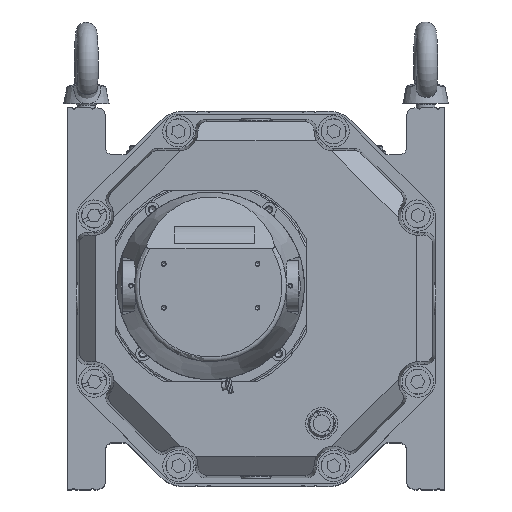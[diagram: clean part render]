
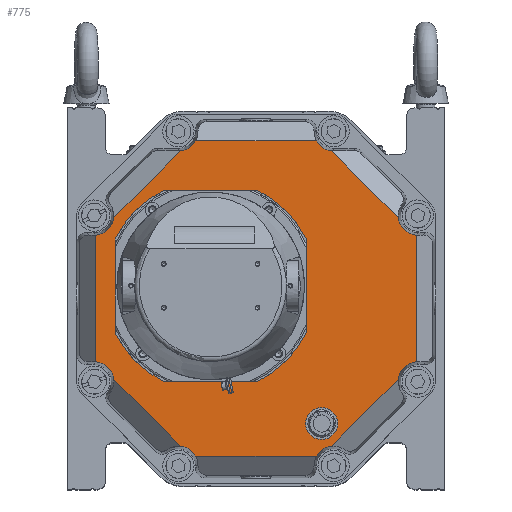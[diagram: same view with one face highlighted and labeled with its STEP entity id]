
A CAD part, top view. The second image highlights one B-rep face of the part: STEP entity #775.
In plain terms, the highlighted planar face has unit normal (0, 0, 1).
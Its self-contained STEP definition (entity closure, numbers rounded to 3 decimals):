
#775=ADVANCED_FACE('',(#14566,#14568,#14570),#14572,.T.);
#14566=FACE_BOUND('',#14567,.T.);
#14567=EDGE_LOOP('',(#32888,#32889,#32890,#32891,#32892,#32893,#32894,#32895,#32896,
#32897,#32898,#32899,#32900,#32901,#32902,#32903));
#14568=FACE_BOUND('',#14569,.T.);
#14569=EDGE_LOOP('',(#32904));
#14570=FACE_BOUND('',#14571,.T.);
#14571=EDGE_LOOP('',(#32905,#32906,#32907,#32908,#32909,#32910,#32911,#32912));
#14572=PLANE('',#14573);
#14573=AXIS2_PLACEMENT_3D('',#14574,#14575,#14576);
#14574=CARTESIAN_POINT('',(0.,0.,188.9));
#14575=DIRECTION('',(0.,0.,1.));
#14576=DIRECTION('',(0.,-1.,0.));
#32888=ORIENTED_EDGE('',*,*,#39616,.F.);
#32889=ORIENTED_EDGE('',*,*,#39617,.T.);
#32890=ORIENTED_EDGE('',*,*,#39618,.F.);
#32891=ORIENTED_EDGE('',*,*,#39619,.T.);
#32892=ORIENTED_EDGE('',*,*,#39620,.T.);
#32893=ORIENTED_EDGE('',*,*,#39621,.T.);
#32894=ORIENTED_EDGE('',*,*,#39622,.T.);
#32895=ORIENTED_EDGE('',*,*,#39623,.T.);
#32896=ORIENTED_EDGE('',*,*,#39624,.F.);
#32897=ORIENTED_EDGE('',*,*,#39625,.T.);
#32898=ORIENTED_EDGE('',*,*,#39626,.F.);
#32899=ORIENTED_EDGE('',*,*,#39627,.T.);
#32900=ORIENTED_EDGE('',*,*,#39628,.T.);
#32901=ORIENTED_EDGE('',*,*,#39629,.T.);
#32902=ORIENTED_EDGE('',*,*,#39630,.T.);
#32903=ORIENTED_EDGE('',*,*,#39631,.T.);
#32904=ORIENTED_EDGE('',*,*,#39632,.F.);
#32905=ORIENTED_EDGE('',*,*,#39486,.F.);
#32906=ORIENTED_EDGE('',*,*,#39610,.F.);
#32907=ORIENTED_EDGE('',*,*,#39482,.F.);
#32908=ORIENTED_EDGE('',*,*,#39611,.F.);
#32909=ORIENTED_EDGE('',*,*,#39478,.F.);
#32910=ORIENTED_EDGE('',*,*,#39608,.F.);
#32911=ORIENTED_EDGE('',*,*,#39474,.F.);
#32912=ORIENTED_EDGE('',*,*,#39609,.F.);
#39474=EDGE_CURVE('',#42989,#42991,#42992,.T.);
#39478=EDGE_CURVE('',#42995,#42997,#42998,.T.);
#39482=EDGE_CURVE('',#43001,#43003,#43004,.T.);
#39486=EDGE_CURVE('',#43007,#43009,#43010,.T.);
#39608=EDGE_CURVE('',#42991,#42995,#43213,.T.);
#39609=EDGE_CURVE('',#43009,#42989,#43214,.T.);
#39610=EDGE_CURVE('',#43003,#43007,#43215,.T.);
#39611=EDGE_CURVE('',#42997,#43001,#43216,.T.);
#39616=EDGE_CURVE('',#43225,#43226,#43227,.T.);
#39617=EDGE_CURVE('',#43225,#43228,#43229,.T.);
#39618=EDGE_CURVE('',#43230,#43228,#43231,.T.);
#39619=EDGE_CURVE('',#43230,#43232,#43233,.T.);
#39620=EDGE_CURVE('',#43232,#43234,#43235,.T.);
#39621=EDGE_CURVE('',#43234,#43236,#43237,.T.);
#39622=EDGE_CURVE('',#43236,#43238,#43239,.T.);
#39623=EDGE_CURVE('',#43238,#43240,#43241,.T.);
#39624=EDGE_CURVE('',#43242,#43240,#43243,.T.);
#39625=EDGE_CURVE('',#43242,#43244,#43245,.T.);
#39626=EDGE_CURVE('',#43246,#43244,#43247,.T.);
#39627=EDGE_CURVE('',#43246,#43248,#43249,.T.);
#39628=EDGE_CURVE('',#43248,#43250,#43251,.T.);
#39629=EDGE_CURVE('',#43250,#43252,#43253,.T.);
#39630=EDGE_CURVE('',#43252,#43254,#43255,.T.);
#39631=EDGE_CURVE('',#43254,#43226,#43256,.T.);
#39632=EDGE_CURVE('',#43257,#43257,#43258,.T.);
#42989=VERTEX_POINT('',#49506);
#42991=VERTEX_POINT('',#49510);
#42992=LINE('',#49511,#49512);
#42995=VERTEX_POINT('',#49520);
#42997=VERTEX_POINT('',#49524);
#42998=LINE('',#49525,#49526);
#43001=VERTEX_POINT('',#49534);
#43003=VERTEX_POINT('',#49538);
#43004=LINE('',#49539,#49540);
#43007=VERTEX_POINT('',#49548);
#43009=VERTEX_POINT('',#49552);
#43010=LINE('',#49553,#49554);
#43213=CIRCLE('',#52208,68.052);
#43214=CIRCLE('',#52212,68.052);
#43215=CIRCLE('',#52216,68.052);
#43216=CIRCLE('',#52220,68.052);
#43225=VERTEX_POINT('',#52648);
#43226=VERTEX_POINT('',#52649);
#43227=CIRCLE('',#52650,12.637);
#43228=VERTEX_POINT('',#52654);
#43229=LINE('',#52655,#52656);
#43230=VERTEX_POINT('',#52658);
#43231=CIRCLE('',#52659,12.637);
#43232=VERTEX_POINT('',#52663);
#43233=LINE('',#52664,#52665);
#43234=VERTEX_POINT('',#52667);
#43235=CIRCLE('',#52668,12.637);
#43236=VERTEX_POINT('',#52672);
#43237=LINE('',#52673,#52674);
#43238=VERTEX_POINT('',#52676);
#43239=CIRCLE('',#52677,12.637);
#43240=VERTEX_POINT('',#52681);
#43241=LINE('',#52682,#52683);
#43242=VERTEX_POINT('',#52685);
#43243=CIRCLE('',#52686,12.637);
#43244=VERTEX_POINT('',#52690);
#43245=LINE('',#52691,#52692);
#43246=VERTEX_POINT('',#52694);
#43247=CIRCLE('',#52695,12.637);
#43248=VERTEX_POINT('',#52699);
#43249=LINE('',#52700,#52701);
#43250=VERTEX_POINT('',#52703);
#43251=CIRCLE('',#52704,12.637);
#43252=VERTEX_POINT('',#52708);
#43253=LINE('',#52709,#52710);
#43254=VERTEX_POINT('',#52712);
#43255=CIRCLE('',#52713,12.637);
#43256=LINE('',#52717,#52718);
#43257=VERTEX_POINT('',#52720);
#43258=CIRCLE('',#52721,10.25);
#49506=CARTESIAN_POINT('',(-90.052,38.062,188.9));
#49510=CARTESIAN_POINT('',(-90.052,-22.062,188.9));
#49511=CARTESIAN_POINT('',(-90.052,38.062,188.9));
#49512=VECTOR('',#49513,1.);
#49513=DIRECTION('',(0.,-1.,0.));
#49520=CARTESIAN_POINT('',(-59.062,-53.052,188.9));
#49524=CARTESIAN_POINT('',(1.062,-53.052,188.9));
#49525=CARTESIAN_POINT('',(-59.062,-53.052,188.9));
#49526=VECTOR('',#49527,1.);
#49527=DIRECTION('',(1.,0.,0.));
#49534=CARTESIAN_POINT('',(32.052,-22.062,188.9));
#49538=CARTESIAN_POINT('',(32.052,38.062,188.9));
#49539=CARTESIAN_POINT('',(32.052,-22.062,188.9));
#49540=VECTOR('',#49541,1.);
#49541=DIRECTION('',(0.,1.,0.));
#49548=CARTESIAN_POINT('',(1.062,69.052,188.9));
#49552=CARTESIAN_POINT('',(-59.062,69.052,188.9));
#49553=CARTESIAN_POINT('',(1.062,69.052,188.9));
#49554=VECTOR('',#49555,1.);
#49555=DIRECTION('',(-1.,0.,0.));
#52208=AXIS2_PLACEMENT_3D('',#52209,#52210,#52211);
#52209=CARTESIAN_POINT('',(-29.,8.,188.9));
#52210=DIRECTION('',(0.,0.,1.));
#52211=DIRECTION('',(-0.897,-0.442,0.));
#52212=AXIS2_PLACEMENT_3D('',#52213,#52214,#52215);
#52213=CARTESIAN_POINT('',(-29.,8.,188.9));
#52214=DIRECTION('',(0.,0.,1.));
#52215=DIRECTION('',(-0.442,0.897,0.));
#52216=AXIS2_PLACEMENT_3D('',#52217,#52218,#52219);
#52217=CARTESIAN_POINT('',(-29.,8.,188.9));
#52218=DIRECTION('',(0.,0.,1.));
#52219=DIRECTION('',(0.897,0.442,0.));
#52220=AXIS2_PLACEMENT_3D('',#52221,#52222,#52223);
#52221=CARTESIAN_POINT('',(-29.,8.,188.9));
#52222=DIRECTION('',(0.,0.,1.));
#52223=DIRECTION('',(0.442,-0.897,0.));
#52648=CARTESIAN_POINT('',(-48.199,94.443,188.9));
#52649=CARTESIAN_POINT('',(-38.569,100.863,188.9));
#52650=AXIS2_PLACEMENT_3D('',#52651,#52652,#52653);
#52651=CARTESIAN_POINT('',(-49.615,107.,188.9));
#52652=DIRECTION('',(0.,0.,1.));
#52653=DIRECTION('',(0.112,-0.994,0.));
#52654=CARTESIAN_POINT('',(-90.943,51.699,188.9));
#52655=CARTESIAN_POINT('',(-48.199,94.443,188.9));
#52656=VECTOR('',#52657,1.);
#52657=DIRECTION('',(-0.707,-0.707,0.));
#52658=CARTESIAN_POINT('',(-102.863,40.495,188.9));
#52659=AXIS2_PLACEMENT_3D('',#52660,#52661,#52662);
#52660=CARTESIAN_POINT('',(-103.5,53.115,188.9));
#52661=DIRECTION('',(0.,0.,1.));
#52662=DIRECTION('',(0.05,-0.999,0.));
#52663=CARTESIAN_POINT('',(-102.863,-40.495,188.9));
#52664=CARTESIAN_POINT('',(-102.863,40.495,188.9));
#52665=VECTOR('',#52666,1.);
#52666=DIRECTION('',(0.,-1.,0.));
#52667=CARTESIAN_POINT('',(-90.943,-51.699,188.9));
#52668=AXIS2_PLACEMENT_3D('',#52669,#52670,#52671);
#52669=CARTESIAN_POINT('',(-103.5,-53.115,188.9));
#52670=DIRECTION('',(0.,0.,-1.));
#52671=DIRECTION('',(0.05,0.999,0.));
#52672=CARTESIAN_POINT('',(-48.199,-94.443,188.9));
#52673=CARTESIAN_POINT('',(-90.943,-51.699,188.9));
#52674=VECTOR('',#52675,1.);
#52675=DIRECTION('',(0.707,-0.707,0.));
#52676=CARTESIAN_POINT('',(-38.569,-100.863,188.9));
#52677=AXIS2_PLACEMENT_3D('',#52678,#52679,#52680);
#52678=CARTESIAN_POINT('',(-49.615,-107.,188.9));
#52679=DIRECTION('',(0.,0.,-1.));
#52680=DIRECTION('',(0.112,0.994,0.));
#52681=CARTESIAN_POINT('',(38.569,-100.863,188.9));
#52682=CARTESIAN_POINT('',(-38.569,-100.863,188.9));
#52683=VECTOR('',#52684,1.);
#52684=DIRECTION('',(1.,0.,0.));
#52685=CARTESIAN_POINT('',(48.199,-94.443,188.9));
#52686=AXIS2_PLACEMENT_3D('',#52687,#52688,#52689);
#52687=CARTESIAN_POINT('',(49.615,-107.,188.9));
#52688=DIRECTION('',(0.,0.,1.));
#52689=DIRECTION('',(-0.112,0.994,0.));
#52690=CARTESIAN_POINT('',(90.943,-51.699,188.9));
#52691=CARTESIAN_POINT('',(48.199,-94.443,188.9));
#52692=VECTOR('',#52693,1.);
#52693=DIRECTION('',(0.707,0.707,0.));
#52694=CARTESIAN_POINT('',(102.863,-40.495,188.9));
#52695=AXIS2_PLACEMENT_3D('',#52696,#52697,#52698);
#52696=CARTESIAN_POINT('',(103.5,-53.115,188.9));
#52697=DIRECTION('',(0.,0.,1.));
#52698=DIRECTION('',(-0.05,0.999,0.));
#52699=CARTESIAN_POINT('',(102.863,40.495,188.9));
#52700=CARTESIAN_POINT('',(102.863,-40.495,188.9));
#52701=VECTOR('',#52702,1.);
#52702=DIRECTION('',(0.,1.,0.));
#52703=CARTESIAN_POINT('',(90.943,51.699,188.9));
#52704=AXIS2_PLACEMENT_3D('',#52705,#52706,#52707);
#52705=CARTESIAN_POINT('',(103.5,53.115,188.9));
#52706=DIRECTION('',(0.,0.,-1.));
#52707=DIRECTION('',(-0.05,-0.999,0.));
#52708=CARTESIAN_POINT('',(48.199,94.443,188.9));
#52709=CARTESIAN_POINT('',(90.943,51.699,188.9));
#52710=VECTOR('',#52711,1.);
#52711=DIRECTION('',(-0.707,0.707,0.));
#52712=CARTESIAN_POINT('',(38.569,100.863,188.9));
#52713=AXIS2_PLACEMENT_3D('',#52714,#52715,#52716);
#52714=CARTESIAN_POINT('',(49.615,107.,188.9));
#52715=DIRECTION('',(0.,0.,-1.));
#52716=DIRECTION('',(-0.112,-0.994,0.));
#52717=CARTESIAN_POINT('',(38.569,100.863,188.9));
#52718=VECTOR('',#52719,1.);
#52719=DIRECTION('',(-1.,0.,0.));
#52720=CARTESIAN_POINT('',(42.,-90.25,188.9));
#52721=AXIS2_PLACEMENT_3D('',#52722,#52723,#52724);
#52722=CARTESIAN_POINT('',(42.,-80.,188.9));
#52723=DIRECTION('',(0.,0.,1.));
#52724=DIRECTION('',(0.,1.,0.));
